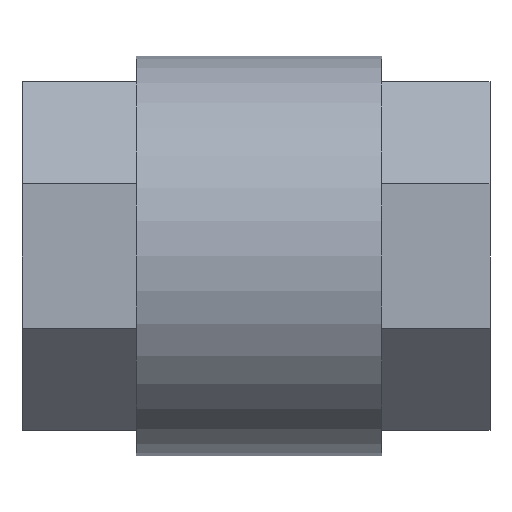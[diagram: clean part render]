
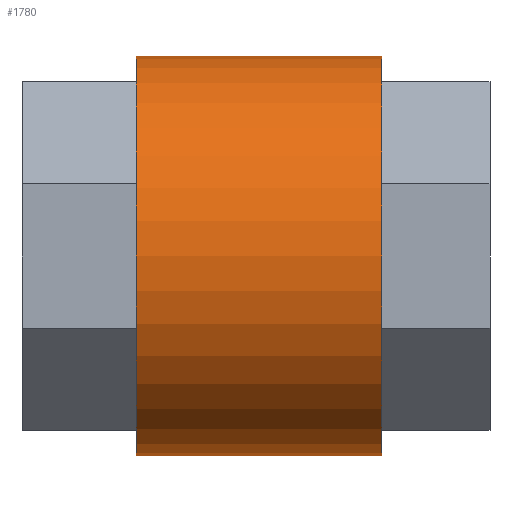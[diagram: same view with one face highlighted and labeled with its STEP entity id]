
A CAD part, front view. The second image highlights one B-rep face of the part: STEP entity #1780.
In plain terms, the highlighted cylindrical face has radius 1.17 mm (diameter 2.34 mm), a full revolution.
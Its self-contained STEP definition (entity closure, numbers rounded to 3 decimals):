
#1263 = EDGE_CURVE('',#1264,#1264,#1266,.T.);
#1264 = VERTEX_POINT('',#1265);
#1265 = CARTESIAN_POINT('',(2.105,-1.17,0.));
#1266 = SURFACE_CURVE('',#1267,(#1272,#1284),.PCURVE_S1.);
#1267 = CIRCLE('',#1268,1.17);
#1268 = AXIS2_PLACEMENT_3D('',#1269,#1270,#1271);
#1269 = CARTESIAN_POINT('',(2.105,0.,0.
    ));
#1270 = DIRECTION('',(-1.,0.,0.));
#1271 = DIRECTION('',(0.,-1.,0.));
#1272 = PCURVE('',#1273,#1278);
#1273 = PLANE('',#1274);
#1274 = AXIS2_PLACEMENT_3D('',#1275,#1276,#1277);
#1275 = CARTESIAN_POINT('',(2.105,0.,0.
    ));
#1276 = DIRECTION('',(-1.,0.,0.));
#1277 = DIRECTION('',(0.,0.,1.));
#1278 = DEFINITIONAL_REPRESENTATION('',(#1279),#1283);
#1279 = CIRCLE('',#1280,1.17);
#1280 = AXIS2_PLACEMENT_2D('',#1281,#1282);
#1281 = CARTESIAN_POINT('',(0.,0.));
#1282 = DIRECTION('',(0.,-1.));
#1283 = ( GEOMETRIC_REPRESENTATION_CONTEXT(2) 
PARAMETRIC_REPRESENTATION_CONTEXT() REPRESENTATION_CONTEXT('2D SPACE',''
  ) );
#1284 = PCURVE('',#1285,#1290);
#1285 = CYLINDRICAL_SURFACE('',#1286,1.17);
#1286 = AXIS2_PLACEMENT_3D('',#1287,#1288,#1289);
#1287 = CARTESIAN_POINT('',(0.668,0.,0.
    ));
#1288 = DIRECTION('',(1.,0.,0.));
#1289 = DIRECTION('',(0.,-1.,0.));
#1290 = DEFINITIONAL_REPRESENTATION('',(#1291),#1295);
#1291 = LINE('',#1292,#1293);
#1292 = CARTESIAN_POINT('',(6.283,1.437));
#1293 = VECTOR('',#1294,1.);
#1294 = DIRECTION('',(-1.,0.));
#1295 = ( GEOMETRIC_REPRESENTATION_CONTEXT(2) 
PARAMETRIC_REPRESENTATION_CONTEXT() REPRESENTATION_CONTEXT('2D SPACE',''
  ) );
#1526 = EDGE_CURVE('',#1527,#1527,#1529,.T.);
#1527 = VERTEX_POINT('',#1528);
#1528 = CARTESIAN_POINT('',(0.668,-1.17,0.));
#1529 = SURFACE_CURVE('',#1530,(#1535,#1547),.PCURVE_S1.);
#1530 = CIRCLE('',#1531,1.17);
#1531 = AXIS2_PLACEMENT_3D('',#1532,#1533,#1534);
#1532 = CARTESIAN_POINT('',(0.668,0.,0.
    ));
#1533 = DIRECTION('',(-1.,0.,0.));
#1534 = DIRECTION('',(0.,-1.,0.));
#1535 = PCURVE('',#1536,#1541);
#1536 = PLANE('',#1537);
#1537 = AXIS2_PLACEMENT_3D('',#1538,#1539,#1540);
#1538 = CARTESIAN_POINT('',(0.668,0.,0.
    ));
#1539 = DIRECTION('',(-1.,0.,0.));
#1540 = DIRECTION('',(0.,0.,1.));
#1541 = DEFINITIONAL_REPRESENTATION('',(#1542),#1546);
#1542 = CIRCLE('',#1543,1.17);
#1543 = AXIS2_PLACEMENT_2D('',#1544,#1545);
#1544 = CARTESIAN_POINT('',(0.,0.));
#1545 = DIRECTION('',(0.,-1.));
#1546 = ( GEOMETRIC_REPRESENTATION_CONTEXT(2) 
PARAMETRIC_REPRESENTATION_CONTEXT() REPRESENTATION_CONTEXT('2D SPACE',''
  ) );
#1547 = PCURVE('',#1285,#1548);
#1548 = DEFINITIONAL_REPRESENTATION('',(#1549),#1553);
#1549 = LINE('',#1550,#1551);
#1550 = CARTESIAN_POINT('',(6.283,0.));
#1551 = VECTOR('',#1552,1.);
#1552 = DIRECTION('',(-1.,0.));
#1553 = ( GEOMETRIC_REPRESENTATION_CONTEXT(2) 
PARAMETRIC_REPRESENTATION_CONTEXT() REPRESENTATION_CONTEXT('2D SPACE',''
  ) );
#1780 = ADVANCED_FACE('',(#1781),#1285,.T.);
#1781 = FACE_BOUND('',#1782,.T.);
#1782 = EDGE_LOOP('',(#1783,#1784,#1804,#1805));
#1783 = ORIENTED_EDGE('',*,*,#1263,.T.);
#1784 = ORIENTED_EDGE('',*,*,#1785,.F.);
#1785 = EDGE_CURVE('',#1527,#1264,#1786,.T.);
#1786 = SEAM_CURVE('',#1787,(#1790,#1797),.PCURVE_S1.);
#1787 = B_SPLINE_CURVE_WITH_KNOTS('',1,(#1788,#1789),.UNSPECIFIED.,.F.,
  .F.,(2,2),(0.,1.437),.PIECEWISE_BEZIER_KNOTS.);
#1788 = CARTESIAN_POINT('',(0.668,-1.17,0.));
#1789 = CARTESIAN_POINT('',(2.105,-1.17,0.));
#1790 = PCURVE('',#1285,#1791);
#1791 = DEFINITIONAL_REPRESENTATION('',(#1792),#1796);
#1792 = LINE('',#1793,#1794);
#1793 = CARTESIAN_POINT('',(0.,0.));
#1794 = VECTOR('',#1795,1.);
#1795 = DIRECTION('',(0.,1.));
#1796 = ( GEOMETRIC_REPRESENTATION_CONTEXT(2) 
PARAMETRIC_REPRESENTATION_CONTEXT() REPRESENTATION_CONTEXT('2D SPACE',''
  ) );
#1797 = PCURVE('',#1285,#1798);
#1798 = DEFINITIONAL_REPRESENTATION('',(#1799),#1803);
#1799 = LINE('',#1800,#1801);
#1800 = CARTESIAN_POINT('',(6.283,0.));
#1801 = VECTOR('',#1802,1.);
#1802 = DIRECTION('',(0.,1.));
#1803 = ( GEOMETRIC_REPRESENTATION_CONTEXT(2) 
PARAMETRIC_REPRESENTATION_CONTEXT() REPRESENTATION_CONTEXT('2D SPACE',''
  ) );
#1804 = ORIENTED_EDGE('',*,*,#1526,.F.);
#1805 = ORIENTED_EDGE('',*,*,#1785,.T.);
